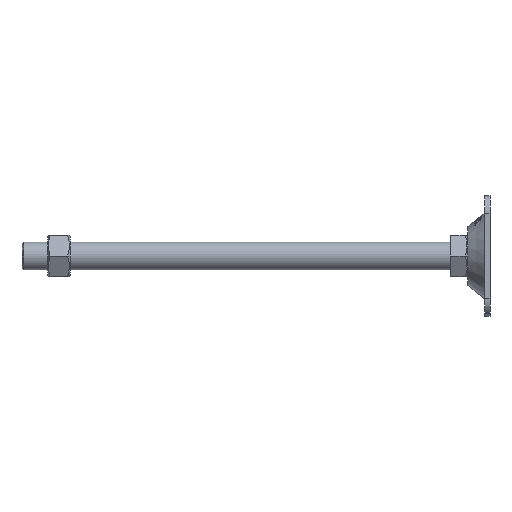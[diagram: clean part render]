
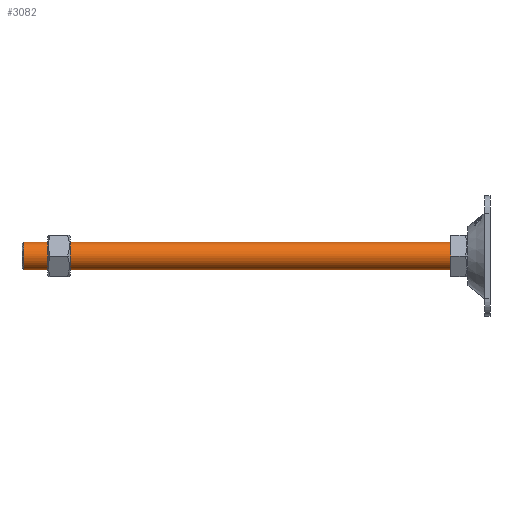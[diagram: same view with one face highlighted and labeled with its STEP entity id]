
A CAD part, left-side view. The second image highlights one B-rep face of the part: STEP entity #3082.
In plain terms, the highlighted cylindrical face has radius 8 mm (diameter 16 mm), a partial arc.
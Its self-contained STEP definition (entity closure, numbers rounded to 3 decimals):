
#156 = CARTESIAN_POINT ( 'NONE',  ( 0., 10., 8. ) ) ;
#486 = EDGE_CURVE ( 'NONE', #3146, #6013, #4247, .T. ) ;
#506 = ORIENTED_EDGE ( 'NONE', *, *, #3836, .T. ) ;
#660 = CIRCLE ( 'NONE', #5875, 8. ) ;
#681 = ORIENTED_EDGE ( 'NONE', *, *, #3342, .T. ) ;
#733 = ORIENTED_EDGE ( 'NONE', *, *, #486, .F. ) ;
#759 = FACE_OUTER_BOUND ( 'NONE', #4661, .T. ) ;
#1038 = CIRCLE ( 'NONE', #1818, 8. ) ;
#1078 = CARTESIAN_POINT ( 'NONE',  ( 0., 8., -8. ) ) ;
#1137 = LINE ( 'NONE', #1078, #5075 ) ;
#1181 = CYLINDRICAL_SURFACE ( 'NONE', #3808, 8. ) ;
#1496 = CARTESIAN_POINT ( 'NONE',  ( 0., 259., 0. ) ) ;
#1498 = CARTESIAN_POINT ( 'NONE',  ( 0., 8., 8. ) ) ;
#1818 = AXIS2_PLACEMENT_3D ( 'NONE', #1496, #5252, #4796 ) ;
#2104 = CARTESIAN_POINT ( 'NONE',  ( 0., 259., -8. ) ) ;
#2537 = DIRECTION ( 'NONE',  ( 0., -1., 0. ) ) ;
#2555 = DIRECTION ( 'NONE',  ( 0., 0., -1. ) ) ;
#2643 = CARTESIAN_POINT ( 'NONE',  ( 0., 8., 0. ) ) ;
#2756 = CARTESIAN_POINT ( 'NONE',  ( 0., 259., 8. ) ) ;
#3082 = ADVANCED_FACE ( 'NONE', ( #759 ), #1181, .T. ) ;
#3146 = VERTEX_POINT ( 'NONE', #2756 ) ;
#3342 = EDGE_CURVE ( 'NONE', #3146, #5604, #1038, .T. ) ;
#3732 = ORIENTED_EDGE ( 'NONE', *, *, #6026, .T. ) ;
#3808 = AXIS2_PLACEMENT_3D ( 'NONE', #2643, #3984, #2555 ) ;
#3836 = EDGE_CURVE ( 'NONE', #6079, #6013, #660, .T. ) ;
#3856 = DIRECTION ( 'NONE',  ( 0., -1., 0. ) ) ;
#3937 = CARTESIAN_POINT ( 'NONE',  ( 0., 10., -8. ) ) ;
#3984 = DIRECTION ( 'NONE',  ( 0., -1., 0. ) ) ;
#3999 = DIRECTION ( 'NONE',  ( 0., 1., 0. ) ) ;
#4096 = VECTOR ( 'NONE', #3856, 1000. ) ;
#4247 = LINE ( 'NONE', #1498, #4096 ) ;
#4661 = EDGE_LOOP ( 'NONE', ( #733, #681, #3732, #506 ) ) ;
#4796 = DIRECTION ( 'NONE',  ( 0., 0., -1. ) ) ;
#5075 = VECTOR ( 'NONE', #2537, 1000. ) ;
#5252 = DIRECTION ( 'NONE',  ( 0., -1., 0. ) ) ;
#5604 = VERTEX_POINT ( 'NONE', #2104 ) ;
#5863 = DIRECTION ( 'NONE',  ( 0., 0., 1. ) ) ;
#5875 = AXIS2_PLACEMENT_3D ( 'NONE', #5923, #3999, #5863 ) ;
#5923 = CARTESIAN_POINT ( 'NONE',  ( 0., 10., 0. ) ) ;
#6013 = VERTEX_POINT ( 'NONE', #156 ) ;
#6026 = EDGE_CURVE ( 'NONE', #5604, #6079, #1137, .T. ) ;
#6079 = VERTEX_POINT ( 'NONE', #3937 ) ;
